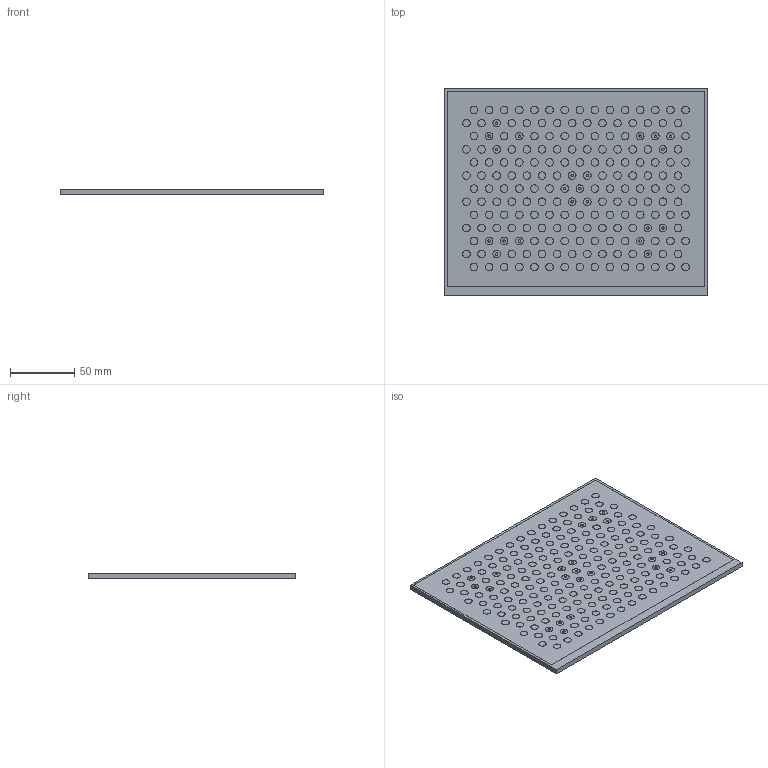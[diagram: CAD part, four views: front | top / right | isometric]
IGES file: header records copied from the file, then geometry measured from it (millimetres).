
Global section: file name: 153-13571_ZCP 200-13x15; native system: Autodesk Inventor 2018; preprocessor: unknown; author: ss; date: 20190326.090626; units: millimetre
Bounding box: 204 x 161 x 4.05 mm (x, y, z)
Volume: 132631.9 mm3; surface area: 68839 mm2
Topology: 1 solids, 1 shells, 448 faces, 684 edges, 456 vertices
Faces by surface type: bspline 448
